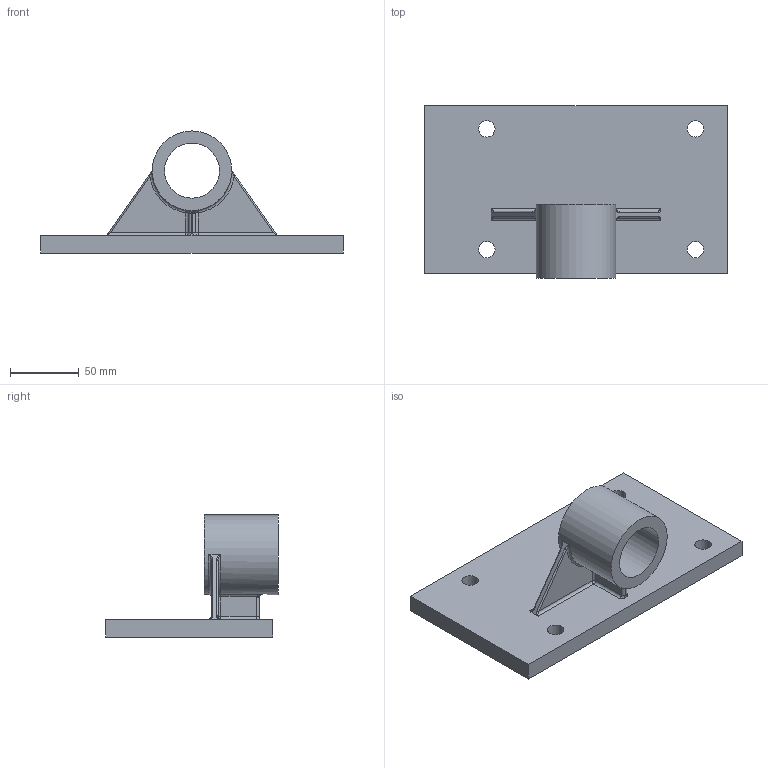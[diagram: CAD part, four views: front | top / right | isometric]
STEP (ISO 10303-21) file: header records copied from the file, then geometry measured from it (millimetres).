
FILE_DESCRIPTION((''),'2;1');
FILE_NAME('D:\PAWEŁ\ZLECENIA\DualSystem\001 Modele\DKAB50_\DK_50_STEP\AT_50.stp','2011-11-27T22:46:34',('Pawe'),(''),'Autodesk Inventor 2009','Autodesk Inventor 2009','');
FILE_SCHEMA(('AUTOMOTIVE_DESIGN { 1 0 10303 214 1 1 1 1 }'));
Length unit declared in the file: millimetre
Products named in the file (1): AT_50
Bounding box: 220 x 126 x 89 mm (x, y, z)
Volume: 435721 mm3; surface area: 88617.3 mm2
Topology: 1 solids, 1 shells, 59 faces, 142 edges, 82 vertices
Faces by surface type: cylinder 21, bspline 20, plane 16, torus 2
Full cylindrical faces by diameter (mm): 12 x4, 40 x1, 58 x1
Entity records: 2948 total; most frequent: CARTESIAN_POINT 1660, ORIENTED_EDGE 262, DIRECTION 243, EDGE_CURVE 131, AXIS2_PLACEMENT_3D 98, VERTEX_POINT 82, EDGE_LOOP 77, FACE_OUTER_BOUND 59
